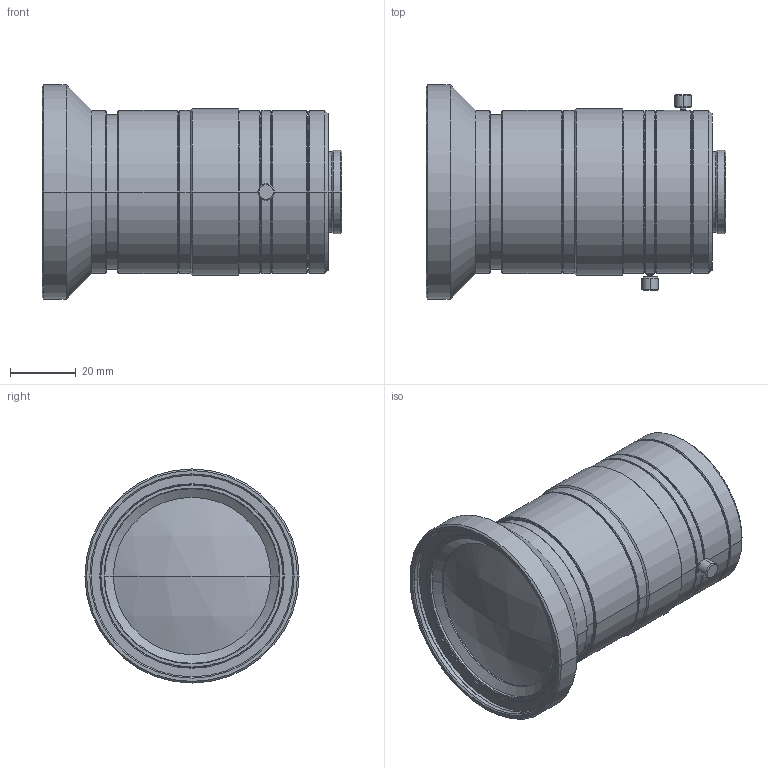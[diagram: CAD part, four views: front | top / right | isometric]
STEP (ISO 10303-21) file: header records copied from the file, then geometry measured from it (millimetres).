
FILE_DESCRIPTION (( 'STEP AP203' ), '1' );
FILE_NAME ('VS-LLD12.5.STEP', '2017-01-19T15:19:23', ( '' ), ( '' ), 'SwSTEP 2.0', 'SolidWorks 2017', '' );
FILE_SCHEMA (( 'CONFIG_CONTROL_DESIGN' ));
Length unit declared in the file: millimetre
Products named in the file (1): VS-LLD12.5
Bounding box: 90.98 x 65 x 65 mm (x, y, z)
Volume: 166009.9 mm3; surface area: 29074.2 mm2
Topology: 1 solids, 1 shells, 192 faces, 388 edges, 224 vertices
Faces by surface type: cone 96, cylinder 64, plane 28, sphere 4
Entity records: 5107 total; most frequent: DIRECTION 984, CARTESIAN_POINT 873, ORIENTED_EDGE 776, AXIS2_PLACEMENT_3D 411, EDGE_CURVE 388, VERTEX_POINT 224, EDGE_LOOP 218, CIRCLE 218
